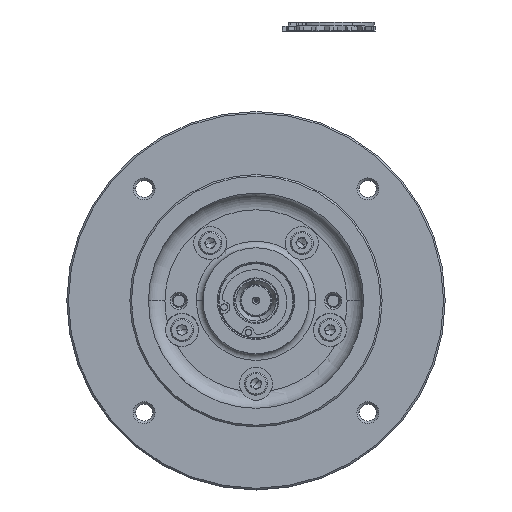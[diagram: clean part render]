
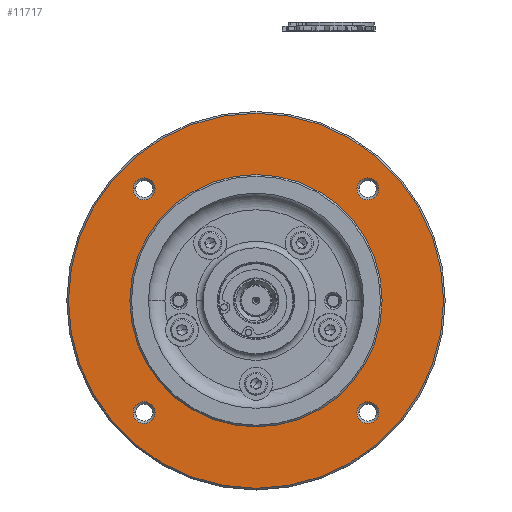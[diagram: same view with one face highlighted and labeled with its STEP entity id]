
A CAD part, top view. The second image highlights one B-rep face of the part: STEP entity #11717.
In plain terms, the highlighted planar face has unit normal (0, 0, 1).
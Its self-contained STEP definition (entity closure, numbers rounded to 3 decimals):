
#237 = EDGE_LOOP ( 'NONE', ( #35470, #39050 ) ) ;
#511 = CARTESIAN_POINT ( 'NONE',  ( 33.78, -32.23, 30.685 ) ) ;
#663 = DIRECTION ( 'NONE',  ( -1., 0., 0. ) ) ;
#1060 = FACE_BOUND ( 'NONE', #31783, .T. ) ;
#1544 = CARTESIAN_POINT ( 'NONE',  ( 33.78, 35.33, 30.685 ) ) ;
#2065 = ORIENTED_EDGE ( 'NONE', *, *, #40136, .F. ) ;
#2221 = VERTEX_POINT ( 'NONE', #41570 ) ;
#2223 = FACE_OUTER_BOUND ( 'NONE', #35997, .T. ) ;
#3498 = DIRECTION ( 'NONE',  ( 0., 0., -1. ) ) ;
#3627 = CARTESIAN_POINT ( 'NONE',  ( 33.78, 35.33, 30.685 ) ) ;
#3949 = EDGE_CURVE ( 'NONE', #2221, #25263, #34151, .T. ) ;
#4662 = DIRECTION ( 'NONE',  ( 1., 0., 0. ) ) ;
#4672 = CARTESIAN_POINT ( 'NONE',  ( 37.082, -32.23, 30.685 ) ) ;
#5353 = CARTESIAN_POINT ( 'NONE',  ( 56.65, 1.55, 30.685 ) ) ;
#5439 = AXIS2_PLACEMENT_3D ( 'NONE', #20016, #12221, #4662 ) ;
#6510 = CIRCLE ( 'NONE', #48198, 3.302 ) ;
#6980 = CIRCLE ( 'NONE', #36928, 38.1 ) ;
#7277 = EDGE_CURVE ( 'NONE', #25263, #2221, #15336, .T. ) ;
#7635 = CARTESIAN_POINT ( 'NONE',  ( -37.082, -32.23, 30.685 ) ) ;
#7849 = VERTEX_POINT ( 'NONE', #7635 ) ;
#8011 = DIRECTION ( 'NONE',  ( -1., 0., 0. ) ) ;
#8210 = AXIS2_PLACEMENT_3D ( 'NONE', #36841, #22549, #36992 ) ;
#8483 = CARTESIAN_POINT ( 'NONE',  ( -33.78, 35.33, 30.685 ) ) ;
#9804 = FACE_BOUND ( 'NONE', #10505, .T. ) ;
#10505 = EDGE_LOOP ( 'NONE', ( #22191, #13984 ) ) ;
#10820 = VERTEX_POINT ( 'NONE', #5353 ) ;
#11366 = ORIENTED_EDGE ( 'NONE', *, *, #31684, .F. ) ;
#11480 = CARTESIAN_POINT ( 'NONE',  ( 37.082, 35.33, 30.685 ) ) ;
#11630 = EDGE_LOOP ( 'NONE', ( #43730, #23867 ) ) ;
#11717 = ADVANCED_FACE ( 'NONE', ( #16284, #9804, #1060, #26382, #2223, #46387 ), #44840, .F. ) ;
#11766 = DIRECTION ( 'NONE',  ( 0., 0., 1. ) ) ;
#11826 = ORIENTED_EDGE ( 'NONE', *, *, #41686, .F. ) ;
#12221 = DIRECTION ( 'NONE',  ( 0., 0., -1. ) ) ;
#12787 = CIRCLE ( 'NONE', #44655, 3.302 ) ;
#13353 = CIRCLE ( 'NONE', #14744, 3.302 ) ;
#13839 = CARTESIAN_POINT ( 'NONE',  ( -33.78, -32.23, 30.685 ) ) ;
#13984 = ORIENTED_EDGE ( 'NONE', *, *, #29546, .F. ) ;
#14498 = AXIS2_PLACEMENT_3D ( 'NONE', #3627, #29971, #8011 ) ;
#14744 = AXIS2_PLACEMENT_3D ( 'NONE', #511, #11766, #663 ) ;
#15244 = CIRCLE ( 'NONE', #46718, 3.302 ) ;
#15336 = CIRCLE ( 'NONE', #14498, 3.302 ) ;
#15411 = CARTESIAN_POINT ( 'NONE',  ( 33.78, -32.23, 30.685 ) ) ;
#15965 = CARTESIAN_POINT ( 'NONE',  ( 0., 1.55, 30.685 ) ) ;
#16284 = FACE_BOUND ( 'NONE', #41442, .T. ) ;
#16297 = DIRECTION ( 'NONE',  ( 0., 0., 1. ) ) ;
#17459 = VERTEX_POINT ( 'NONE', #4672 ) ;
#17977 = VERTEX_POINT ( 'NONE', #33902 ) ;
#18081 = EDGE_CURVE ( 'NONE', #30393, #31271, #6980, .T. ) ;
#19202 = ORIENTED_EDGE ( 'NONE', *, *, #45314, .F. ) ;
#19237 = DIRECTION ( 'NONE',  ( 0., 0., 1. ) ) ;
#19451 = CARTESIAN_POINT ( 'NONE',  ( -30.478, 35.33, 30.685 ) ) ;
#20016 = CARTESIAN_POINT ( 'NONE',  ( 0., 1.55, 30.685 ) ) ;
#20566 = EDGE_CURVE ( 'NONE', #31271, #30393, #39794, .T. ) ;
#21645 = CARTESIAN_POINT ( 'NONE',  ( 0., -55.1, 30.685 ) ) ;
#22191 = ORIENTED_EDGE ( 'NONE', *, *, #26124, .F. ) ;
#22549 = DIRECTION ( 'NONE',  ( 0., 0., -1. ) ) ;
#23637 = AXIS2_PLACEMENT_3D ( 'NONE', #21645, #3498, #33097 ) ;
#23705 = CARTESIAN_POINT ( 'NONE',  ( 30.478, -32.23, 30.685 ) ) ;
#23821 = AXIS2_PLACEMENT_3D ( 'NONE', #1544, #16297, #24270 ) ;
#23867 = ORIENTED_EDGE ( 'NONE', *, *, #7277, .F. ) ;
#24015 = DIRECTION ( 'NONE',  ( 0., 0., -1. ) ) ;
#24270 = DIRECTION ( 'NONE',  ( -1., 0., 0. ) ) ;
#25263 = VERTEX_POINT ( 'NONE', #11480 ) ;
#25528 = DIRECTION ( 'NONE',  ( -1., 0., 0. ) ) ;
#25783 = DIRECTION ( 'NONE',  ( -1., 0., 0. ) ) ;
#26124 = EDGE_CURVE ( 'NONE', #7849, #17977, #42693, .T. ) ;
#26321 = CIRCLE ( 'NONE', #5439, 56.65 ) ;
#26382 = FACE_BOUND ( 'NONE', #11630, .T. ) ;
#28476 = CARTESIAN_POINT ( 'NONE',  ( 38.1, 1.55, 30.685 ) ) ;
#29289 = VERTEX_POINT ( 'NONE', #19451 ) ;
#29419 = DIRECTION ( 'NONE',  ( 0., 0., 1. ) ) ;
#29546 = EDGE_CURVE ( 'NONE', #17977, #7849, #6510, .T. ) ;
#29608 = DIRECTION ( 'NONE',  ( 0., 0., 1. ) ) ;
#29971 = DIRECTION ( 'NONE',  ( 0., 0., 1. ) ) ;
#30393 = VERTEX_POINT ( 'NONE', #42690 ) ;
#30810 = DIRECTION ( 'NONE',  ( 0., 0., -1. ) ) ;
#31271 = VERTEX_POINT ( 'NONE', #28476 ) ;
#31563 = VERTEX_POINT ( 'NONE', #48520 ) ;
#31684 = EDGE_CURVE ( 'NONE', #17459, #33272, #12787, .T. ) ;
#31783 = EDGE_LOOP ( 'NONE', ( #11826, #37715 ) ) ;
#31853 = CARTESIAN_POINT ( 'NONE',  ( 0., 1.55, 30.685 ) ) ;
#33097 = DIRECTION ( 'NONE',  ( 1., 0., 0. ) ) ;
#33272 = VERTEX_POINT ( 'NONE', #23705 ) ;
#33902 = CARTESIAN_POINT ( 'NONE',  ( -30.478, -32.23, 30.685 ) ) ;
#34151 = CIRCLE ( 'NONE', #23821, 3.302 ) ;
#34377 = CIRCLE ( 'NONE', #8210, 56.65 ) ;
#34679 = DIRECTION ( 'NONE',  ( -1., 0., 0. ) ) ;
#34814 = CIRCLE ( 'NONE', #36911, 3.302 ) ;
#35470 = ORIENTED_EDGE ( 'NONE', *, *, #20566, .T. ) ;
#35997 = EDGE_LOOP ( 'NONE', ( #48766, #2065 ) ) ;
#36011 = EDGE_CURVE ( 'NONE', #10820, #31563, #34377, .T. ) ;
#36250 = DIRECTION ( 'NONE',  ( 0., 0., 1. ) ) ;
#36838 = CARTESIAN_POINT ( 'NONE',  ( -33.78, -32.23, 30.685 ) ) ;
#36841 = CARTESIAN_POINT ( 'NONE',  ( 0., 1.55, 30.685 ) ) ;
#36911 = AXIS2_PLACEMENT_3D ( 'NONE', #37135, #29419, #25528 ) ;
#36928 = AXIS2_PLACEMENT_3D ( 'NONE', #15965, #30810, #38184 ) ;
#36992 = DIRECTION ( 'NONE',  ( 1., 0., 0. ) ) ;
#37135 = CARTESIAN_POINT ( 'NONE',  ( -33.78, 35.33, 30.685 ) ) ;
#37715 = ORIENTED_EDGE ( 'NONE', *, *, #39481, .F. ) ;
#38184 = DIRECTION ( 'NONE',  ( 1., 0., 0. ) ) ;
#39050 = ORIENTED_EDGE ( 'NONE', *, *, #18081, .T. ) ;
#39481 = EDGE_CURVE ( 'NONE', #29289, #45632, #15244, .T. ) ;
#39794 = CIRCLE ( 'NONE', #41491, 38.1 ) ;
#40136 = EDGE_CURVE ( 'NONE', #31563, #10820, #26321, .T. ) ;
#41442 = EDGE_LOOP ( 'NONE', ( #19202, #11366 ) ) ;
#41491 = AXIS2_PLACEMENT_3D ( 'NONE', #31853, #24015, #46858 ) ;
#41570 = CARTESIAN_POINT ( 'NONE',  ( 30.478, 35.33, 30.685 ) ) ;
#41686 = EDGE_CURVE ( 'NONE', #45632, #29289, #34814, .T. ) ;
#42690 = CARTESIAN_POINT ( 'NONE',  ( -38.1, 1.55, 30.685 ) ) ;
#42693 = CIRCLE ( 'NONE', #43732, 3.302 ) ;
#43730 = ORIENTED_EDGE ( 'NONE', *, *, #3949, .F. ) ;
#43732 = AXIS2_PLACEMENT_3D ( 'NONE', #13839, #36250, #25783 ) ;
#44274 = DIRECTION ( 'NONE',  ( -1., 0., 0. ) ) ;
#44655 = AXIS2_PLACEMENT_3D ( 'NONE', #15411, #19237, #45756 ) ;
#44840 = PLANE ( 'NONE',  #23637 ) ;
#45314 = EDGE_CURVE ( 'NONE', #33272, #17459, #13353, .T. ) ;
#45632 = VERTEX_POINT ( 'NONE', #48145 ) ;
#45756 = DIRECTION ( 'NONE',  ( -1., 0., 0. ) ) ;
#46245 = DIRECTION ( 'NONE',  ( 0., 0., 1. ) ) ;
#46387 = FACE_BOUND ( 'NONE', #237, .T. ) ;
#46718 = AXIS2_PLACEMENT_3D ( 'NONE', #8483, #46245, #34679 ) ;
#46858 = DIRECTION ( 'NONE',  ( 1., 0., 0. ) ) ;
#48145 = CARTESIAN_POINT ( 'NONE',  ( -37.082, 35.33, 30.685 ) ) ;
#48198 = AXIS2_PLACEMENT_3D ( 'NONE', #36838, #29608, #44274 ) ;
#48520 = CARTESIAN_POINT ( 'NONE',  ( -56.65, 1.55, 30.685 ) ) ;
#48766 = ORIENTED_EDGE ( 'NONE', *, *, #36011, .F. ) ;
